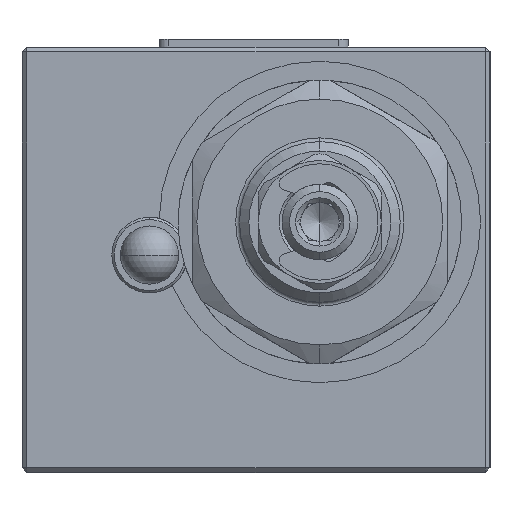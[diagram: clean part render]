
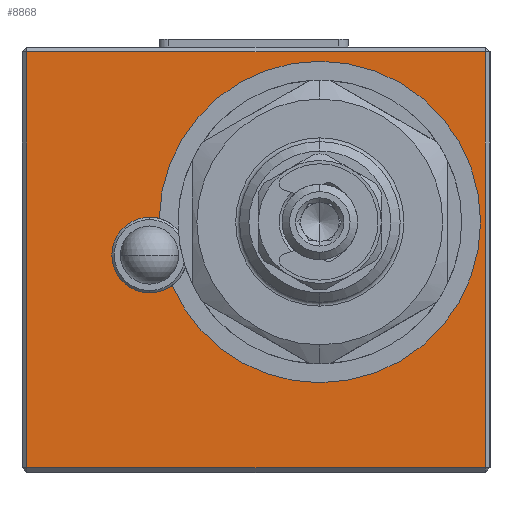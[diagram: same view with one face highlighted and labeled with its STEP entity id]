
A CAD part, left-side view. The second image highlights one B-rep face of the part: STEP entity #8868.
In plain terms, the highlighted planar face has unit normal (-1, 0, 0).
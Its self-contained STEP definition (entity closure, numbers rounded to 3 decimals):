
#127 = CARTESIAN_POINT ( 'NONE',  ( 0., -24.25, -22. ) ) ;
#190 = CARTESIAN_POINT ( 'NONE',  ( 0., 11.25, 4.5 ) ) ;
#375 = EDGE_CURVE ( 'NONE', #9986, #12026, #13009, .T. ) ;
#399 = EDGE_CURVE ( 'NONE', #12026, #2814, #1549, .T. ) ;
#562 = CARTESIAN_POINT ( 'NONE',  ( 0., 24.25, 22. ) ) ;
#593 = CARTESIAN_POINT ( 'NONE',  ( 0., 11.25, 0.5 ) ) ;
#849 = VECTOR ( 'NONE', #3890, 1000. ) ;
#955 = CARTESIAN_POINT ( 'NONE',  ( 0., 24.25, -22. ) ) ;
#1110 = VERTEX_POINT ( 'NONE', #562 ) ;
#1288 = DIRECTION ( 'NONE',  ( 0., 0., 1. ) ) ;
#1294 = VECTOR ( 'NONE', #3956, 1000. ) ;
#1339 = DIRECTION ( 'NONE',  ( 0., 0., 1. ) ) ;
#1440 = CARTESIAN_POINT ( 'NONE',  ( 0., 11.25, -3.5 ) ) ;
#1444 = ORIENTED_EDGE ( 'NONE', *, *, #7760, .F. ) ;
#1549 = LINE ( 'NONE', #9869, #1294 ) ;
#1600 = CIRCLE ( 'NONE', #10777, 17. ) ;
#2506 = AXIS2_PLACEMENT_3D ( 'NONE', #10584, #7490, #1288 ) ;
#2814 = VERTEX_POINT ( 'NONE', #8273 ) ;
#2824 = CARTESIAN_POINT ( 'NONE',  ( 0., -6.75, 21. ) ) ;
#2892 = ORIENTED_EDGE ( 'NONE', *, *, #7611, .F. ) ;
#2985 = DIRECTION ( 'NONE',  ( -1., 0., 0. ) ) ;
#3213 = VECTOR ( 'NONE', #8216, 1000. ) ;
#3330 = FACE_OUTER_BOUND ( 'NONE', #11799, .T. ) ;
#3615 = DIRECTION ( 'NONE',  ( 0., 0., 1. ) ) ;
#3789 = DIRECTION ( 'NONE',  ( 0., 0., 1. ) ) ;
#3890 = DIRECTION ( 'NONE',  ( 0., -1., 0. ) ) ;
#3956 = DIRECTION ( 'NONE',  ( 0., 0., 1. ) ) ;
#4149 = ORIENTED_EDGE ( 'NONE', *, *, #399, .T. ) ;
#4428 = CIRCLE ( 'NONE', #5927, 17. ) ;
#4582 = DIRECTION ( 'NONE',  ( -1., 0., 0. ) ) ;
#4621 = ORIENTED_EDGE ( 'NONE', *, *, #13161, .F. ) ;
#4696 = CARTESIAN_POINT ( 'NONE',  ( 0., 24.75, -22.5 ) ) ;
#4876 = ORIENTED_EDGE ( 'NONE', *, *, #4947, .T. ) ;
#4947 = EDGE_CURVE ( 'NONE', #2814, #1110, #10330, .T. ) ;
#4999 = DIRECTION ( 'NONE',  ( 0., 0., 1. ) ) ;
#5069 = CARTESIAN_POINT ( 'NONE',  ( 0., -6.75, 4. ) ) ;
#5343 = CARTESIAN_POINT ( 'NONE',  ( 0., -6.75, 4. ) ) ;
#5672 = EDGE_CURVE ( 'NONE', #1110, #9986, #6361, .T. ) ;
#5913 = DIRECTION ( 'NONE',  ( -1., 0., 0. ) ) ;
#5927 = AXIS2_PLACEMENT_3D ( 'NONE', #6181, #2985, #10329 ) ;
#5976 = CIRCLE ( 'NONE', #10974, 4. ) ;
#6181 = CARTESIAN_POINT ( 'NONE',  ( 0., -6.75, 4. ) ) ;
#6236 = CARTESIAN_POINT ( 'NONE',  ( 0., 10.246, 4.372 ) ) ;
#6253 = AXIS2_PLACEMENT_3D ( 'NONE', #4696, #10944, #3789 ) ;
#6303 = CARTESIAN_POINT ( 'NONE',  ( 0., 24.25, -22.5 ) ) ;
#6361 = LINE ( 'NONE', #6303, #7253 ) ;
#6453 = FACE_BOUND ( 'NONE', #8292, .T. ) ;
#6564 = VERTEX_POINT ( 'NONE', #6236 ) ;
#6574 = ORIENTED_EDGE ( 'NONE', *, *, #12229, .F. ) ;
#6967 = VERTEX_POINT ( 'NONE', #13147 ) ;
#7052 = CIRCLE ( 'NONE', #2506, 4. ) ;
#7253 = VECTOR ( 'NONE', #10450, 1000. ) ;
#7490 = DIRECTION ( 'NONE',  ( -1., 0., 0. ) ) ;
#7564 = CIRCLE ( 'NONE', #11744, 4. ) ;
#7566 = ORIENTED_EDGE ( 'NONE', *, *, #12792, .F. ) ;
#7611 = EDGE_CURVE ( 'NONE', #7790, #9942, #1600, .T. ) ;
#7760 = EDGE_CURVE ( 'NONE', #9942, #6564, #12562, .T. ) ;
#7790 = VERTEX_POINT ( 'NONE', #13195 ) ;
#7897 = ORIENTED_EDGE ( 'NONE', *, *, #9418, .F. ) ;
#8172 = ORIENTED_EDGE ( 'NONE', *, *, #5672, .T. ) ;
#8216 = DIRECTION ( 'NONE',  ( 0., 1., 0. ) ) ;
#8273 = CARTESIAN_POINT ( 'NONE',  ( 0., -24.25, 22. ) ) ;
#8278 = CARTESIAN_POINT ( 'NONE',  ( 0., 24.75, 22. ) ) ;
#8292 = EDGE_LOOP ( 'NONE', ( #7566, #1444, #2892, #6574, #4621, #7897 ) ) ;
#8577 = AXIS2_PLACEMENT_3D ( 'NONE', #5343, #4582, #1339 ) ;
#8748 = CARTESIAN_POINT ( 'NONE',  ( 0., 11.25, 0.5 ) ) ;
#8868 = ADVANCED_FACE ( 'NONE', ( #3330, #6453 ), #11736, .T. ) ;
#9034 = CARTESIAN_POINT ( 'NONE',  ( 0., -24.75, -22. ) ) ;
#9418 = EDGE_CURVE ( 'NONE', #13028, #9872, #7564, .T. ) ;
#9869 = CARTESIAN_POINT ( 'NONE',  ( 0., -24.25, 22.5 ) ) ;
#9872 = VERTEX_POINT ( 'NONE', #1440 ) ;
#9942 = VERTEX_POINT ( 'NONE', #2824 ) ;
#9986 = VERTEX_POINT ( 'NONE', #955 ) ;
#10329 = DIRECTION ( 'NONE',  ( 0., 0., 1. ) ) ;
#10330 = LINE ( 'NONE', #8278, #3213 ) ;
#10450 = DIRECTION ( 'NONE',  ( 0., 0., -1. ) ) ;
#10584 = CARTESIAN_POINT ( 'NONE',  ( 0., 11.25, 0.5 ) ) ;
#10777 = AXIS2_PLACEMENT_3D ( 'NONE', #5069, #13574, #4999 ) ;
#10944 = DIRECTION ( 'NONE',  ( -1., 0., 0. ) ) ;
#10974 = AXIS2_PLACEMENT_3D ( 'NONE', #593, #5913, #12283 ) ;
#11736 = PLANE ( 'NONE',  #6253 ) ;
#11744 = AXIS2_PLACEMENT_3D ( 'NONE', #8748, #12997, #3615 ) ;
#11799 = EDGE_LOOP ( 'NONE', ( #4876, #8172, #12307, #4149 ) ) ;
#12026 = VERTEX_POINT ( 'NONE', #127 ) ;
#12229 = EDGE_CURVE ( 'NONE', #6967, #7790, #4428, .T. ) ;
#12283 = DIRECTION ( 'NONE',  ( 0., 0., 1. ) ) ;
#12307 = ORIENTED_EDGE ( 'NONE', *, *, #375, .T. ) ;
#12562 = CIRCLE ( 'NONE', #8577, 17. ) ;
#12792 = EDGE_CURVE ( 'NONE', #6564, #13028, #7052, .T. ) ;
#12997 = DIRECTION ( 'NONE',  ( -1., 0., 0. ) ) ;
#13009 = LINE ( 'NONE', #9034, #849 ) ;
#13028 = VERTEX_POINT ( 'NONE', #190 ) ;
#13147 = CARTESIAN_POINT ( 'NONE',  ( 0., 8.868, -2.714 ) ) ;
#13161 = EDGE_CURVE ( 'NONE', #9872, #6967, #5976, .T. ) ;
#13195 = CARTESIAN_POINT ( 'NONE',  ( 0., -6.75, -13. ) ) ;
#13574 = DIRECTION ( 'NONE',  ( -1., 0., 0. ) ) ;
